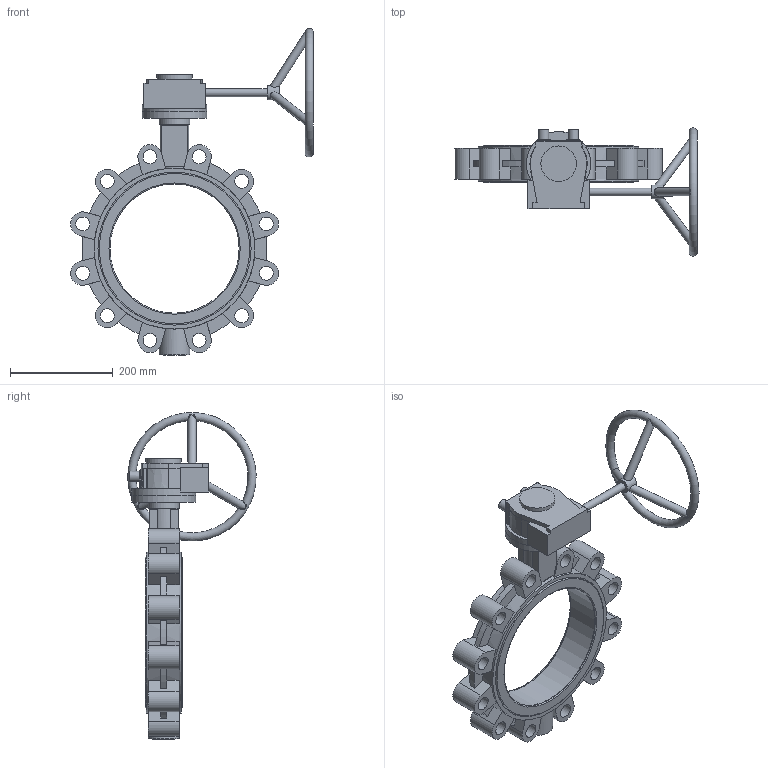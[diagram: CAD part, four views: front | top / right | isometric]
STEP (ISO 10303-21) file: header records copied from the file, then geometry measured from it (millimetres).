
FILE_DESCRIPTION (( 'STEP AP203' ), '1' );
FILE_NAME ('2502 LT型中线衬胶带销 手动头蝶阀 DN250 PN25 CD0309061.STEP', '2026-03-27T08:09:19', ( '' ), ( '' ), 'SwSTEP 2.0', 'SolidWorks 2018', '' );
FILE_SCHEMA (( 'CONFIG_CONTROL_DESIGN' ));
Length unit declared in the file: millimetre
Products named in the file (5): GALA-D250-01LCN25-00; DIN908-内六角螺塞-M38x1.5; GALA-D250-04AZC-00; 2502 LT型中线衬胶带销 手动头蝶阀 DN250 PN25 CD0309061; G50蚾饜 潠趙111
Assembly tree (4 placements, depth 2):
  2502 LT型中线衬胶带销 手动头蝶阀 DN250 PN25 CD0309061
    GALA-D250-01LCN25-00
    GALA-D250-04AZC-00
    DIN908-内六角螺塞-M38x1.5
    G50蚾饜 潠趙111
Bounding box: 472.11 x 249.68 x 636.25 mm (x, y, z)
Volume: 4887210.4 mm3; surface area: 737438.6 mm2
Topology: 4 solids, 5 shells, 257 faces, 693 edges, 457 vertices
Faces by surface type: plane 148, cylinder 81, cone 14, bspline 10, torus 4
Full cylindrical faces by diameter (mm): 12 x4, 15 x1, 16 x3, 20 x2, 27 x13, 38 x1, 44 x1, 46 x1, 56 x1, 60 x2, 69 x1, 124.95 x1, 125 x1, 251.404 x1, 262 x1, 262.003 x1, 293.003 x2, 298 x2, 313 x2
Entity records: 10763 total; most frequent: CARTESIAN_POINT 4075, ORIENTED_EDGE 1258, DIRECTION 1242, EDGE_CURVE 629, AXIS2_PLACEMENT_3D 463, VERTEX_POINT 442, EDGE_LOOP 357, VECTOR 316
